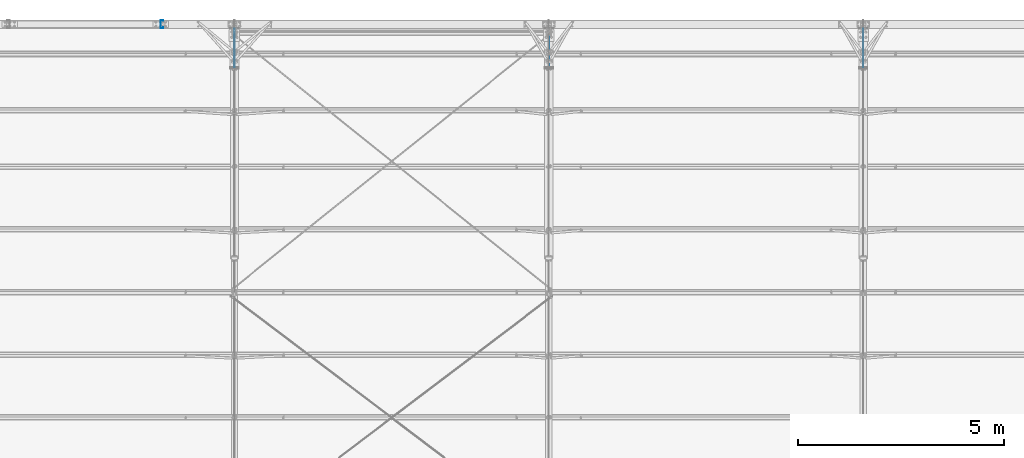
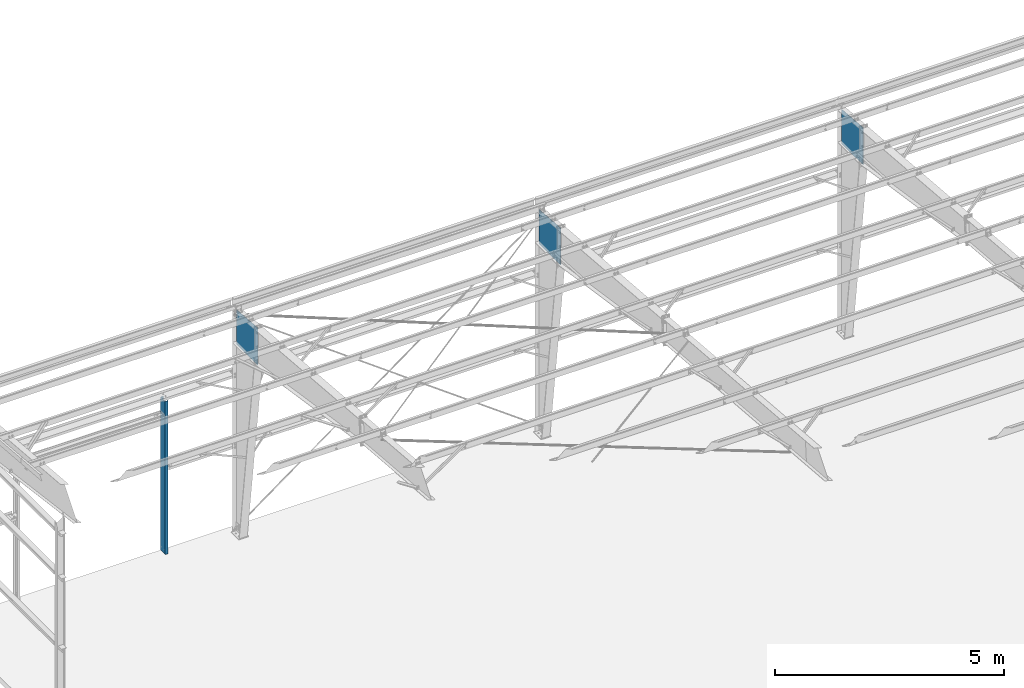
# One storey, part 2 of 185: 4 columns, 4 elements without a shape of their own.
"""IFC2X3 building model written with IfcOpenShell, lengths in millimetres."""

from ifc_helpers import new_model, si_unit, frame, origin_with_axes, origin_2d_with_axis, place, context, subcontext, project, spatial, polyline, rectangle, outline, extrude, clip, halfspace, material, type_object, element, aggregate, save


model = new_model("IFC2X3")

# Units and contexts
model_context = context("Model", 3, precision=1e-05, world=origin_with_axes())
body_context = subcontext(model_context, "Body", "Model", "MODEL_VIEW")
ifc_project = project(units=[si_unit("LENGTHUNIT", "METRE", prefix="MILLI"), si_unit("AREAUNIT", "SQUARE_METRE"), si_unit("VOLUMEUNIT", "CUBIC_METRE"), si_unit("MASSUNIT", "GRAM", prefix="KILO"), si_unit("TIMEUNIT", "SECOND"), si_unit("PLANEANGLEUNIT", "RADIAN"), si_unit("SOLIDANGLEUNIT", "STERADIAN"), si_unit("THERMODYNAMICTEMPERATUREUNIT", "DEGREE_CELSIUS"), si_unit("LUMINOUSINTENSITYUNIT", "LUMEN")], contexts=[model_context])

# Site, building, storey
site_placement = place(None, origin_with_axes())
site = spatial("IfcSite", under=ifc_project, at=site_placement, Name="Undefined", CompositionType="ELEMENT")
building_placement = place(site_placement, origin_with_axes())
building = spatial("IfcBuilding", under=site, at=building_placement, Name="Undefined", CompositionType="ELEMENT")
storey_placement = place(building_placement, origin_with_axes())
storey = spatial("IfcBuildingStorey", under=building, at=storey_placement, Name="Undefined", CompositionType="ELEMENT", Elevation=0.0)

# Assembly, column
assembly_1_placement = place(storey_placement, origin_with_axes())
assembly_1 = element("IfcElementAssembly", 1, at=assembly_1_placement, inside=storey, Name="Steel Assembly", AssemblyPlace="NOTDEFINED", PredefinedType="RIGID_FRAME")
ifc_material = material(Name="STEEL/55")
column_type_1 = type_object("IfcColumnType", Name="8C16", PredefinedType="NOTDEFINED")
column_1_placement = place(assembly_1_placement, frame((5480.05, 31902.4, 0.0), z_axis=(0.0, 0.0, 1.0), x_axis=(0.0, 1.0, 0.0)))
column_1 = element("IfcColumn", 2, at=column_1_placement, type_object=column_type_1, material=ifc_material, Name="Jamb", ObjectType="8C16", context=body_context, shape_type="Clipping", body=[
    clip(extrude(outline(polyline([(-31.75, 79.370002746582), (-31.75, 101.599998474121), (31.75, 101.599998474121), (31.75, -101.599998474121), (-31.75, -101.599998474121), (-31.75, -79.379997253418), (-28.5699996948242, -79.379997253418), (-28.5699996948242, -98.4300003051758), (28.5699996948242, -98.4300003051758), (28.5699996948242, 98.4199981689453), (-28.5699996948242, 98.4199981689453), (-28.5699996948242, 79.370002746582), (-31.75, 79.370002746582)])), frame((0.0, 0.0, 4076.7), z_axis=(0.0, 0.0, -1.0), x_axis=(0.0, 1.0, 0.0)), (0.0, 0.0, 1.0), 4076.7), halfspace(frame((0.0, 28.5699996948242, 4076.7), z_axis=(0.0, 0.0, -1.0), x_axis=(0.0, -1.0, 0.0)), True)),
])
aggregate(assembly_1, [column_1])

assembly_2_placement = place(storey_placement, origin_with_axes())
assembly_2 = element("IfcElementAssembly", 3, at=assembly_2_placement, inside=storey, Name="Steel Assembly", AssemblyPlace="NOTDEFINED", PredefinedType="RIGID_FRAME")
column_type_2 = type_object("IfcColumnType", Name="PL5/16\"X37\"", PredefinedType="NOTDEFINED")
column_2_placement = place(assembly_2_placement, frame((22479.0, 31323.026, 4984.52948446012), z_axis=(0.0, 0.0, 1.0), x_axis=(0.0, 1.0, 0.0)))
column_2 = element("IfcColumn", 4, at=column_2_placement, type_object=column_type_2, material=ifc_material, Name="Web", ObjectType="PL5/16\"X37\"", context=body_context, shape_type="Clipping", body=[
    clip(extrude(rectangle(XDim=7.9375, YDim=939.8, at=origin_2d_with_axis()), frame((0.0, 0.0, 995.886173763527), z_axis=(0.0, 0.0, -1.0), x_axis=(0.0, 1.0, 0.0)), (0.0, 0.0, 1.0), 995.9), halfspace(frame((680.31377182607, 0.0, 899.643442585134), z_axis=(-0.0830454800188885, 0.0, -0.996545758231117), x_axis=(0.0, 1.0, 0.0)), True)),
])
aggregate(assembly_2, [column_2])

assembly_3_placement = place(storey_placement, origin_with_axes())
assembly_3 = element("IfcElementAssembly", 5, at=assembly_3_placement, inside=storey, Name="Steel Assembly", AssemblyPlace="NOTDEFINED", PredefinedType="RIGID_FRAME")
column_3_placement = place(assembly_3_placement, frame((14859.0, 31323.026, 4984.52948446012), z_axis=(0.0, 0.0, 1.0), x_axis=(0.0, 1.0, 0.0)))
column_3 = element("IfcColumn", 6, at=column_3_placement, type_object=column_type_2, material=ifc_material, Name="Web", ObjectType="PL5/16\"X37\"", context=body_context, shape_type="Clipping", body=[
    clip(extrude(rectangle(XDim=7.9375, YDim=939.8, at=origin_2d_with_axis()), frame((0.0, 0.0, 995.886173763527), z_axis=(0.0, 0.0, -1.0), x_axis=(0.0, 1.0, 0.0)), (0.0, 0.0, 1.0), 995.9), halfspace(frame((680.31377182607, 0.0, 899.643442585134), z_axis=(-0.0830454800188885, 0.0, -0.996545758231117), x_axis=(0.0, 1.0, 0.0)), True)),
])
aggregate(assembly_3, [column_3])

assembly_4_placement = place(storey_placement, origin_with_axes())
assembly_4 = element("IfcElementAssembly", 7, at=assembly_4_placement, inside=storey, Name="Steel Assembly", AssemblyPlace="NOTDEFINED", PredefinedType="RIGID_FRAME")
column_4_placement = place(assembly_4_placement, frame((7239.0, 31323.026, 4984.52948446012), z_axis=(0.0, 0.0, 1.0), x_axis=(0.0, 1.0, 0.0)))
column_4 = element("IfcColumn", 8, at=column_4_placement, type_object=column_type_2, material=ifc_material, Name="Web", ObjectType="PL5/16\"X37\"", context=body_context, shape_type="Clipping", body=[
    clip(extrude(rectangle(XDim=7.9375, YDim=939.8, at=origin_2d_with_axis()), frame((0.0, 0.0, 995.886173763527), z_axis=(0.0, 0.0, -1.0), x_axis=(0.0, 1.0, 0.0)), (0.0, 0.0, 1.0), 995.9), halfspace(frame((680.31377182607, 0.0, 899.643442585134), z_axis=(-0.0830454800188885, 0.0, -0.996545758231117), x_axis=(0.0, 1.0, 0.0)), True)),
])
aggregate(assembly_4, [column_4])

save(model, "model.ifc")
